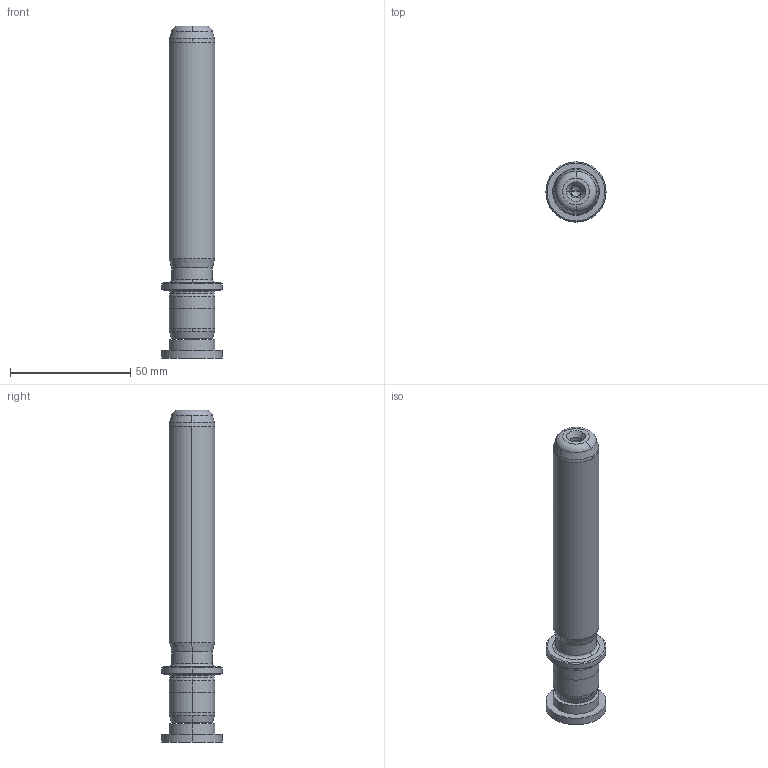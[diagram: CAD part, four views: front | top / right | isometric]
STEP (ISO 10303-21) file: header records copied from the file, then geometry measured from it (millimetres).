
FILE_DESCRIPTION((''),'2;1');
FILE_NAME('P22_019_110.stp','2009-02-02T11:03:31',(''),(''),'Mechanical Desktop 2009','Mechanical Desktop 2009',', , ');
FILE_SCHEMA(('CONFIG_CONTROL_DESIGN'));
Length unit declared in the file: millimetre
Products named in the file (2): Product; blmdl1
Assembly tree (1 placements, depth 2):
  Product
    blmdl1
Bounding box: 25 x 25 x 138 mm (x, y, z)
Volume: 38890.5 mm3; surface area: 11149.2 mm2
Topology: 3 solids, 3 shells, 99 faces, 237 edges, 149 vertices
Faces by surface type: cylinder 32, cone 28, plane 19, bspline 14, torus 6
Entity records: 3507 total; most frequent: CARTESIAN_POINT 1027, DIRECTION 562, ORIENTED_EDGE 466, AXIS2_PLACEMENT_3D 242, EDGE_CURVE 233, CIRCLE 155, VERTEX_POINT 149, EDGE_LOOP 110
